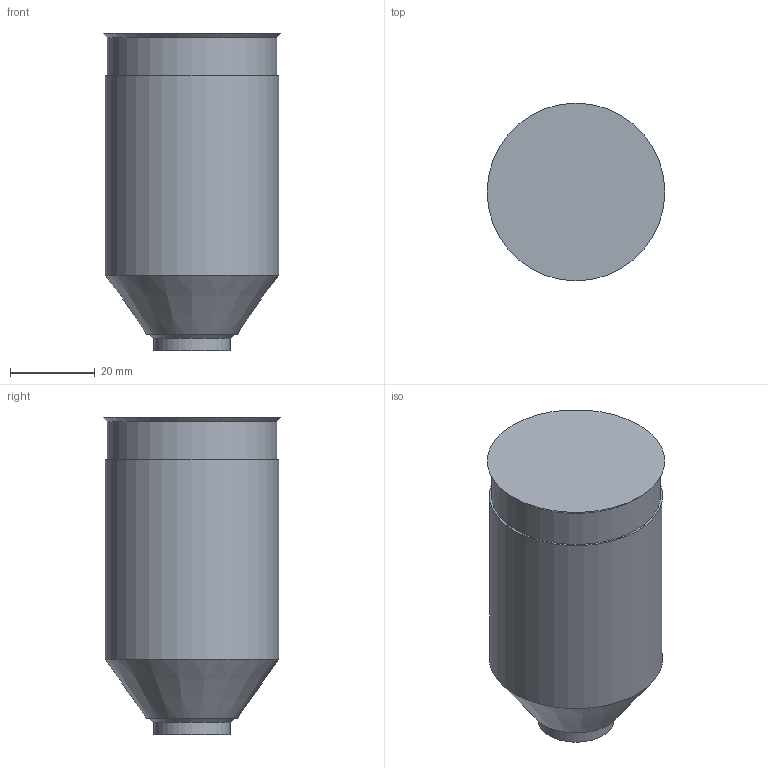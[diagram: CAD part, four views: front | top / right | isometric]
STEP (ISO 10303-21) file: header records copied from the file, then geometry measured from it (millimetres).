
FILE_DESCRIPTION(('STEP AP214'),'1');
FILE_NAME('SEDE IPM1000-C.stp','2018-06-13T06:43:04',(' '),(' '),'Spatial InterOp 3D',' ',' ');
FILE_SCHEMA(('AUTOMOTIVE_DESIGN { 1 0 10303 214 1 1 1 1 }'));
Length unit declared in the file: millimetre
Products named in the file (1): 1
Bounding box: 42 x 42 x 75 mm (x, y, z)
Volume: 86969.8 mm3; surface area: 11060 mm2
Topology: 1 solids, 1 shells, 10 faces, 15 edges, 9 vertices
Faces by surface type: plane 4, cone 3, cylinder 3
Full cylindrical faces by diameter (mm): 18 x1, 40 x1, 41 x1
Entity records: 291 total; most frequent: DIRECTION 40, CARTESIAN_POINT 29, AXIS2_PLACEMENT_3D 20, EDGE_LOOP 18, ORIENTED_EDGE 18, FACE_OUTER_BOUND 13, STYLED_ITEM 10, PRESENTATION_STYLE_ASSIGNMENT 10
